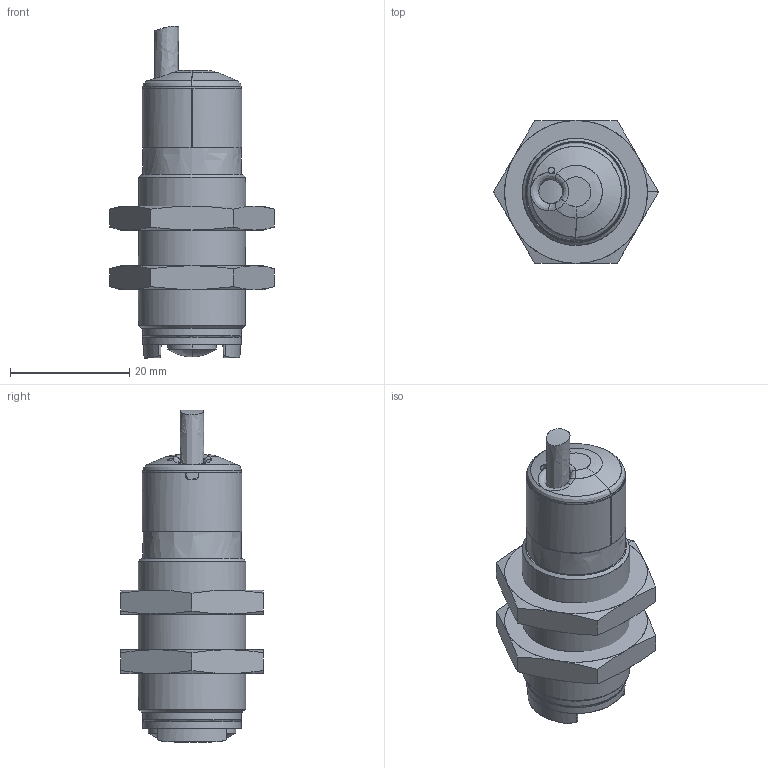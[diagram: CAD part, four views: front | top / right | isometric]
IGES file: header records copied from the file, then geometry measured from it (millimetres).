
Global section: file name: D:\CS\S15\DSD-0514.igs; native system: NX V7.5; preprocessor: SIEMENS PLM Software NX 7.5; date: 20130305.115226; units: millimetre
Bounding box: 27.71 x 24 x 55.78 mm (x, y, z)
Surface area: 22808.4 mm2 (no closed solid volume)
Topology: 0 solids, 0 shells, 869 faces, 10182 edges, 10119 vertices
Faces by surface type: bspline 869
